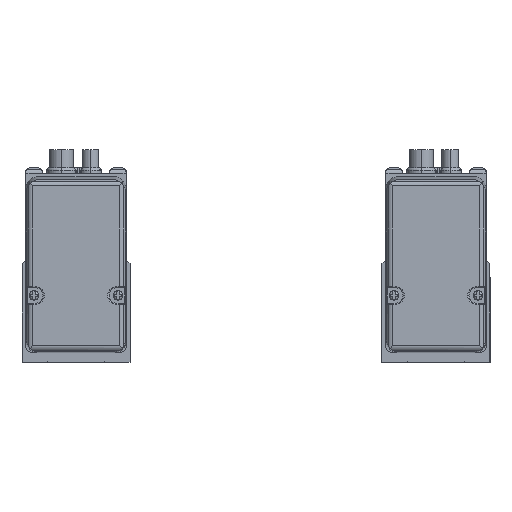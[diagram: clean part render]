
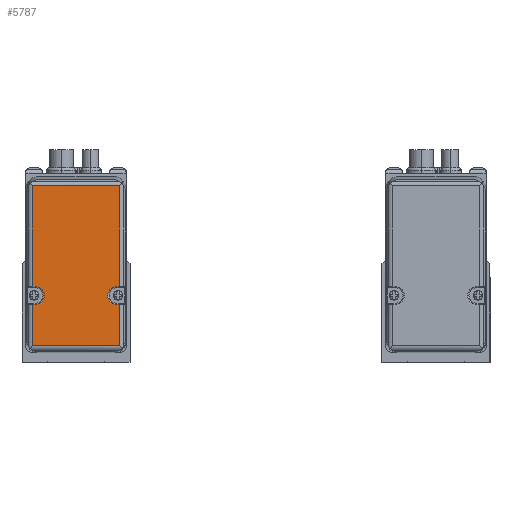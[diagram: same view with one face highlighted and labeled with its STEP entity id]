
A CAD part, left-side view. The second image highlights one B-rep face of the part: STEP entity #5787.
In plain terms, the highlighted planar face has unit normal (-1, 0, 0).
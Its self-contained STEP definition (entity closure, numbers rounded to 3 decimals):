
#5787=ADVANCED_FACE('',(#12021),#12022,.F.);
#12021=FACE_OUTER_BOUND('',#19074,.T.);
#12022=PLANE('',#19075);
#19074=EDGE_LOOP('',(#35907,#35908,#35909,#35910,#35911,#35912,#35913,#35914,#35915,#35916,#35917,#35918,#35919,#35920,#35921,#35922));
#19075=AXIS2_PLACEMENT_3D('',#35923,#35924,#35925);
#35907=ORIENTED_EDGE('',*,*,#47073,.F.);
#35908=ORIENTED_EDGE('',*,*,#40931,.F.);
#35909=ORIENTED_EDGE('',*,*,#43308,.F.);
#35910=ORIENTED_EDGE('',*,*,#45344,.F.);
#35911=ORIENTED_EDGE('',*,*,#44055,.F.);
#35912=ORIENTED_EDGE('',*,*,#43211,.F.);
#35913=ORIENTED_EDGE('',*,*,#47320,.F.);
#35914=ORIENTED_EDGE('',*,*,#46736,.F.);
#35915=ORIENTED_EDGE('',*,*,#46519,.F.);
#35916=ORIENTED_EDGE('',*,*,#45641,.F.);
#35917=ORIENTED_EDGE('',*,*,#40757,.F.);
#35918=ORIENTED_EDGE('',*,*,#42425,.F.);
#35919=ORIENTED_EDGE('',*,*,#45823,.F.);
#35920=ORIENTED_EDGE('',*,*,#47321,.F.);
#35921=ORIENTED_EDGE('',*,*,#46096,.F.);
#35922=ORIENTED_EDGE('',*,*,#45589,.F.);
#35923=CARTESIAN_POINT('',(-134.,50.,20.));
#35924=DIRECTION('',(1.0,0.0,0.0));
#35925=DIRECTION('',(0.0,1.0,0.0));
#40757=EDGE_CURVE('',#48888,#48889,#48890,.T.);
#40931=EDGE_CURVE('',#49203,#49205,#49206,.T.);
#42425=EDGE_CURVE('',#51781,#48888,#51783,.T.);
#43211=EDGE_CURVE('',#53051,#53053,#53054,.T.);
#43308=EDGE_CURVE('',#53210,#49203,#53211,.T.);
#44055=EDGE_CURVE('',#53053,#54341,#54347,.T.);
#45344=EDGE_CURVE('',#54341,#53210,#56180,.T.);
#45589=EDGE_CURVE('',#54825,#56517,#56518,.T.);
#45641=EDGE_CURVE('',#48889,#56587,#56588,.T.);
#45823=EDGE_CURVE('',#56829,#51781,#56831,.T.);
#46096=EDGE_CURVE('',#56517,#57191,#57192,.T.);
#46519=EDGE_CURVE('',#56587,#53206,#57702,.T.);
#46736=EDGE_CURVE('',#53206,#57966,#57967,.T.);
#47073=EDGE_CURVE('',#49205,#54825,#58363,.T.);
#47320=EDGE_CURVE('',#57966,#53051,#58629,.T.);
#47321=EDGE_CURVE('',#57191,#56829,#58630,.T.);
#48888=VERTEX_POINT('',#60668);
#48889=VERTEX_POINT('',#60669);
#48890=CIRCLE('',#60670,3.75);
#49203=VERTEX_POINT('',#61144);
#49205=VERTEX_POINT('',#61163);
#49206=LINE('',#61164,#61165);
#51781=VERTEX_POINT('',#64863);
#51783=LINE('',#64865,#64866);
#53051=VERTEX_POINT('',#66759);
#53053=VERTEX_POINT('',#66761);
#53054=LINE('',#66762,#66763);
#53206=VERTEX_POINT('',#66974);
#53210=VERTEX_POINT('',#66978);
#53211=CIRCLE('',#66979,3.75);
#54341=VERTEX_POINT('',#68677);
#54347=LINE('',#68684,#68685);
#54825=VERTEX_POINT('',#69351);
#56180=LINE('',#71348,#71349);
#56517=VERTEX_POINT('',#71848);
#56518=LINE('',#71849,#71850);
#56587=VERTEX_POINT('',#71955);
#56588=LINE('',#71956,#71957);
#56829=VERTEX_POINT('',#72317);
#56831=LINE('',#72319,#72320);
#57191=VERTEX_POINT('',#72836);
#57192=LINE('',#72837,#72838);
#57702=LINE('',#73588,#73589);
#57966=VERTEX_POINT('',#73979);
#57967=LINE('',#73980,#73981);
#58363=LINE('',#74611,#74612);
#58629=LINE('',#75019,#75020);
#58630=LINE('',#75021,#75022);
#60668=CARTESIAN_POINT('',(-134.,33.005,9.05));
#60669=CARTESIAN_POINT('',(-134.,33.005,1.55));
#60670=AXIS2_PLACEMENT_3D('',#76646,#76647,#76648);
#61144=CARTESIAN_POINT('',(-134.,66.995,9.05));
#61163=CARTESIAN_POINT('',(-134.,66.995,9.05));
#61164=CARTESIAN_POINT('',(-134.,66.995,12.65));
#61165=VECTOR('',#76894,1.0);
#64863=CARTESIAN_POINT('',(-134.,33.005,9.05));
#64865=CARTESIAN_POINT('',(-134.,33.005,12.65));
#64866=VECTOR('',#78794,1.0);
#66759=CARTESIAN_POINT('',(-134.,68.164,-15.664));
#66761=CARTESIAN_POINT('',(-134.,68.164,1.55));
#66762=CARTESIAN_POINT('',(-134.,68.164,21.25));
#66763=VECTOR('',#79758,1.0);
#66974=CARTESIAN_POINT('',(-134.,31.836,1.55));
#66978=CARTESIAN_POINT('',(-134.,66.995,1.55));
#66979=AXIS2_PLACEMENT_3D('',#79884,#79885,#79886);
#68677=CARTESIAN_POINT('',(-134.,66.995,1.55));
#68684=CARTESIAN_POINT('',(-134.,50.,1.55));
#68685=VECTOR('',#80815,0.5);
#69351=CARTESIAN_POINT('',(-134.,68.164,9.05));
#71348=CARTESIAN_POINT('',(-134.,66.995,12.65));
#71349=VECTOR('',#82413,1.0);
#71848=CARTESIAN_POINT('',(-134.,68.164,51.065));
#71849=CARTESIAN_POINT('',(-134.,68.164,21.25));
#71850=VECTOR('',#82673,1.0);
#71955=CARTESIAN_POINT('',(-134.,33.005,1.55));
#71956=CARTESIAN_POINT('',(-134.,33.005,12.65));
#71957=VECTOR('',#82727,1.0);
#72317=CARTESIAN_POINT('',(-134.,31.836,9.05));
#72319=CARTESIAN_POINT('',(-134.,50.,9.05));
#72320=VECTOR('',#82944,0.5);
#72836=CARTESIAN_POINT('',(-134.,31.836,51.065));
#72837=CARTESIAN_POINT('',(-134.,50.,51.065));
#72838=VECTOR('',#83248,1.0);
#73588=CARTESIAN_POINT('',(-134.,50.,1.55));
#73589=VECTOR('',#83674,0.5);
#73979=CARTESIAN_POINT('',(-134.,31.836,-15.664));
#73980=CARTESIAN_POINT('',(-134.,31.836,21.25));
#73981=VECTOR('',#83909,1.0);
#74611=CARTESIAN_POINT('',(-134.,50.,9.05));
#74612=VECTOR('',#84226,0.5);
#75019=CARTESIAN_POINT('',(-134.,50.,-15.664));
#75020=VECTOR('',#84410,1.0);
#75021=CARTESIAN_POINT('',(-134.,31.836,21.25));
#75022=VECTOR('',#84411,1.0);
#76646=CARTESIAN_POINT('',(-134.,33.,5.3));
#76647=DIRECTION('',(-1.0,0.0,0.0));
#76648=DIRECTION('',(0.0,1.0,0.0));
#76894=DIRECTION('',(0.0,0.,1.0));
#78794=DIRECTION('',(0.0,0.0,-1.0));
#79758=DIRECTION('',(0.0,0.0,1.0));
#79884=CARTESIAN_POINT('',(-134.,67.,5.3));
#79885=DIRECTION('',(-1.0,0.0,0.0));
#79886=DIRECTION('',(0.0,-1.0,0.));
#80815=DIRECTION('',(0.0,-1.0,0.));
#82413=DIRECTION('',(0.0,0.,1.0));
#82673=DIRECTION('',(0.0,0.0,1.0));
#82727=DIRECTION('',(0.0,0.0,-1.0));
#82944=DIRECTION('',(0.0,1.0,0.));
#83248=DIRECTION('',(0.0,-1.0,0.));
#83674=DIRECTION('',(0.0,-1.0,0.));
#83909=DIRECTION('',(-0.0,0.,-1.0));
#84226=DIRECTION('',(0.0,1.0,0.));
#84410=DIRECTION('',(0.0,1.0,0.));
#84411=DIRECTION('',(-0.0,0.,-1.0));
